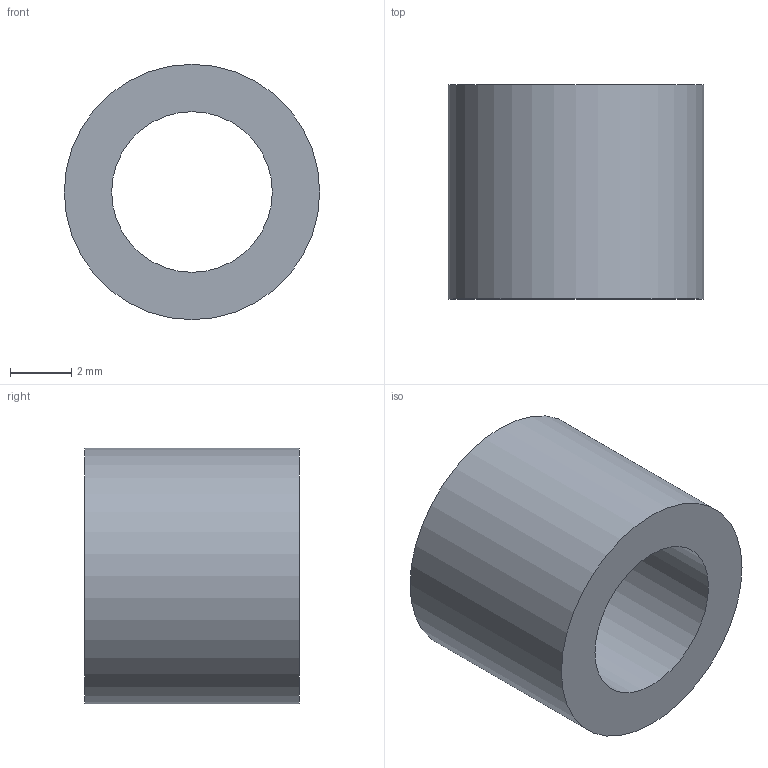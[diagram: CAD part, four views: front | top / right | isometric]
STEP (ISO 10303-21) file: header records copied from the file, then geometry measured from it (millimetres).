
FILE_DESCRIPTION(/* description */ ('STEP AP242 Edition 2','CAx-IF Rec.Pracs.---Representation and Presentation of Product Manufacturing Information (PMI)---4.0---2014-10-13','CAx-IF Rec.Pracs.---3D Tessellated Geometry---0.4---2014-09-14','2;1','CAx-IF Rec.Pracs.---User Defined Attributes---1.5---2016-08-15'),/* implementation_level */ '2;1');
FILE_NAME(/* name */ 'Innering - Part 1',/* time_stamp */ '2026-09-12T07:35:27Z',/* author */ (''),/* organization */ (''),/* preprocessor_version */ 'ST-DEVELOPER v20',/* originating_system */ 'ONSHAPE BY PTC INC, 1.220',/* authorisation */ ' ');
FILE_SCHEMA (('AP242_MANAGED_MODEL_BASED_3D_ENGINEERING_MIM_LF { 1 0 10303 442 3 1 4 }'));
Length unit declared in the file: metre
Products named in the file (1): Part 1
Bounding box: 8.35 x 7 x 8.35 mm (x, y, z)
Volume: 231.8 mm3; surface area: 365.3 mm2
Topology: 1 solids, 1 shells, 4 faces, 6 edges, 4 vertices
Faces by surface type: cylinder 2, plane 2
Full cylindrical faces by diameter (mm): 5.25 x1, 8.35 x1
Entity records: 110 total; most frequent: DIRECTION 18, CARTESIAN_POINT 13, AXIS2_PLACEMENT_3D 9, ORIENTED_EDGE 8, EDGE_LOOP 8, FACE_BOUND 8, EDGE_CURVE 4, VERTEX_POINT 4
